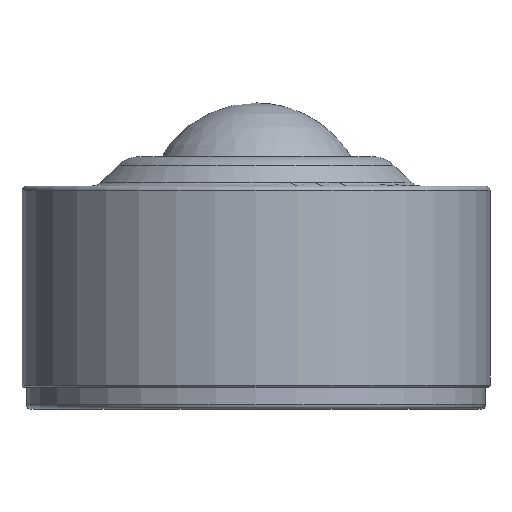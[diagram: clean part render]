
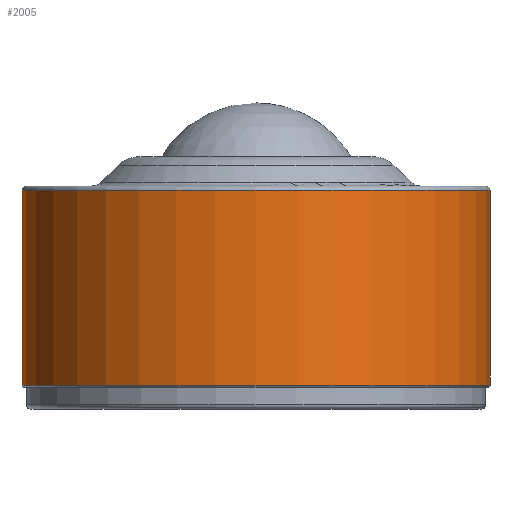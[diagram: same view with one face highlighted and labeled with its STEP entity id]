
A CAD part, front view. The second image highlights one B-rep face of the part: STEP entity #2005.
In plain terms, the highlighted cylindrical face has radius 53.5 mm (diameter 107 mm), a full revolution.
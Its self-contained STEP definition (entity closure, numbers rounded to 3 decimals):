
#26=CYLINDRICAL_SURFACE('',#2196,53.5);
#678=FACE_BOUND('',#997,.T.);
#816=FACE_OUTER_BOUND('',#996,.T.);
#996=EDGE_LOOP('',(#1860));
#997=EDGE_LOOP('',(#1861));
#1050=CIRCLE('',#2195,53.5);
#1051=CIRCLE('',#2197,53.5);
#1178=VERTEX_POINT('',#3246);
#1179=VERTEX_POINT('',#3249);
#1406=EDGE_CURVE('',#1178,#1178,#1050,.T.);
#1407=EDGE_CURVE('',#1179,#1179,#1051,.T.);
#1860=ORIENTED_EDGE('',*,*,#1407,.F.);
#1861=ORIENTED_EDGE('',*,*,#1406,.T.);
#2005=ADVANCED_FACE('',(#816,#678),#26,.T.);
#2195=AXIS2_PLACEMENT_3D('',#3247,#2749,#2750);
#2196=AXIS2_PLACEMENT_3D('',#3248,#2751,#2752);
#2197=AXIS2_PLACEMENT_3D('',#3250,#2753,#2754);
#2749=DIRECTION('center_axis',(0.,0.,-1.));
#2750=DIRECTION('ref_axis',(0.,1.,0.));
#2751=DIRECTION('center_axis',(0.,0.,-1.));
#2752=DIRECTION('ref_axis',(0.,1.,0.));
#2753=DIRECTION('center_axis',(0.,0.,-1.));
#2754=DIRECTION('ref_axis',(0.,1.,0.));
#3246=CARTESIAN_POINT('',(0.,53.5,50.));
#3247=CARTESIAN_POINT('Origin',(0.,0.,50.));
#3248=CARTESIAN_POINT('Origin',(0.,0.,27.75));
#3249=CARTESIAN_POINT('',(0.,53.5,5.5));
#3250=CARTESIAN_POINT('Origin',(0.,0.,5.5));
